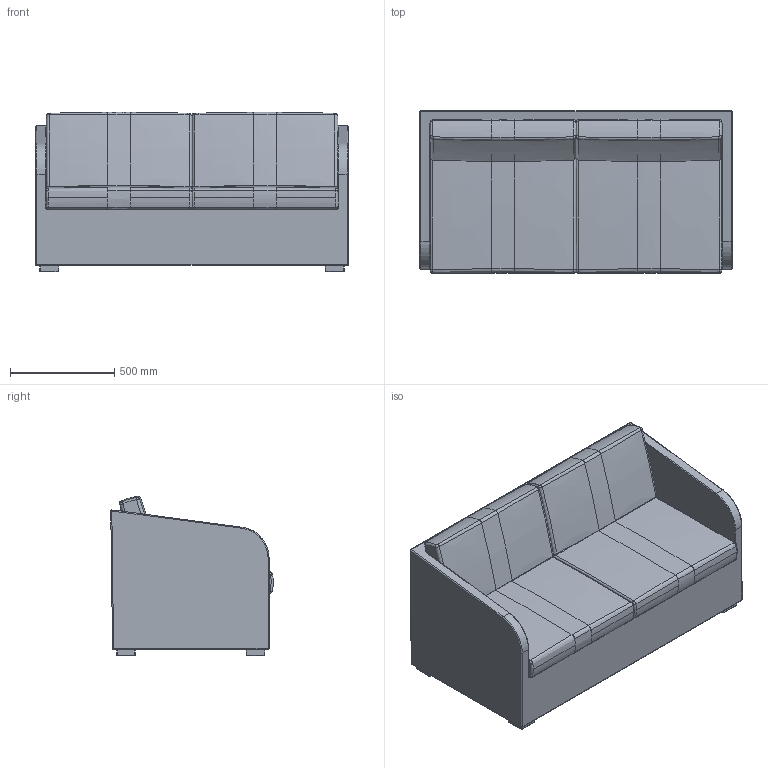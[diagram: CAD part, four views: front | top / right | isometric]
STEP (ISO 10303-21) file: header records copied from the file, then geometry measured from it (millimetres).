
FILE_DESCRIPTION(/* description */ (''),/* implementation_level */ '2;1');
FILE_NAME(/* name */ 'KINOSH~2',/* time_stamp */ '2019-07-19T09:37:07+09:00',/* author */ (''),/* organization */ (''),/* preprocessor_version */ 'ST-DEVELOPER v15',/* originating_system */ '',/* authorisation */ '');
FILE_SCHEMA (('AUTOMOTIVE_DESIGN'));
Length unit declared in the file: millimetre
Products named in the file (1): Document
Bounding box: 1500 x 780 x 765.38 mm (x, y, z)
Volume: 968655.4 mm3; surface area: 9214970.2 mm2
Topology: 4 solids, 9 shells, 332 faces, 763 edges, 404 vertices
Faces by surface type: bspline 278, plane 54
Entity records: 21389 total; most frequent: CARTESIAN_POINT 17170, ORIENTED_EDGE 1434, EDGE_CURVE 754, VERTEX_POINT 404, B_SPLINE_CURVE_WITH_KNOTS 379, ADVANCED_FACE 332, FACE_OUTER_BOUND 332, EDGE_LOOP 332
